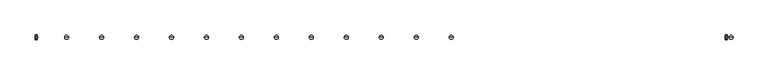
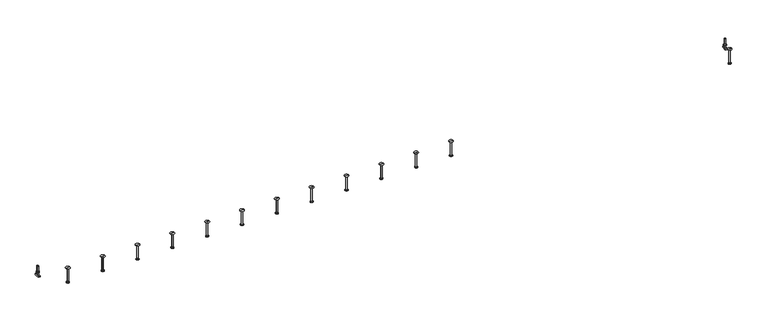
"""IFC4 building model written with IfcOpenShell, lengths in millimetres: fastener geometry, JTA-W JORDAHL® AnchorChannels : JTA-W L=6000 mm."""

from ifc_helpers import new_model, si_unit, point, frame, frame_2d, origin, place, context, project, spatial, polyline, circle_curve, trimmed, segment, composite_curve, outline, extrude, source, transform, mapped, element, save
from ifc_brep_helpers import plane_surface, cylinder_surface, revolved_surface, advanced_brep


def fastener_03d0444e(model_context):
    return source(origin(), model_context, "Body", "SolidModel", [
        advanced_brep(
        [(3593.0, 0.0, -34.0), (3575.5, 0.0, -34.0), (3610.5, 0.0, -34.0), (3581.2, 0.0, -165.0), (3593.0, 0.0, -165.0), (3604.8, 0.0, -165.0), (3581.2, 0.0, -163.0), (3604.8, 0.0, -163.0), (3587.2, 0.0, -159.5358984), (3598.8, 0.0, -159.5358984), (3587.2, 0.0, -37.0), (3598.8, 0.0, -37.0)],
        [
            (0, 1),
            (1, 2, circle_curve(frame((3593.0, 0.0, -34.0), z_axis=(0.0, 0.0, 1.0), x_axis=(1.0, 0.0, 0.0)), 17.5)),
            (2, 0),
            (2, 1, circle_curve(frame((3593.0, 0.0, -34.0), z_axis=(0.0, 0.0, 1.0), x_axis=(1.0, 0.0, 0.0)), 17.5)),
            (3, 4),
            (4, 5),
            (5, 3, circle_curve(frame((3593.0, 0.0, -165.0), z_axis=(0.0, 0.0, -1.0), x_axis=(1.0, 0.0, 0.0)), 11.8)),
            (3, 5, circle_curve(frame((3593.0, 0.0, -165.0), z_axis=(0.0, 0.0, -1.0), x_axis=(1.0, 0.0, 0.0)), 11.8)),
            (6, 3),
            (5, 7),
            (7, 6, circle_curve(frame((3593.0, 0.0, -163.0), z_axis=(0.0, 0.0, -1.0), x_axis=(1.0, 0.0, 0.0)), 11.8)),
            (6, 7, circle_curve(frame((3593.0, 0.0, -163.0), z_axis=(0.0, 0.0, -1.0), x_axis=(1.0, 0.0, 0.0)), 11.8)),
            (8, 6),
            (7, 9),
            (9, 8, circle_curve(frame((3593.0, 0.0, -159.5358984), z_axis=(0.0, 0.0, -1.0), x_axis=(1.0, 0.0, 0.0)), 5.8)),
            (8, 9, circle_curve(frame((3593.0, 0.0, -159.5358984), z_axis=(0.0, 0.0, -1.0), x_axis=(1.0, 0.0, 0.0)), 5.8)),
            (10, 8),
            (9, 11),
            (11, 10, circle_curve(frame((3593.0, 0.0, -37.0), z_axis=(0.0, 0.0, -1.0), x_axis=(1.0, 0.0, 0.0)), 5.8)),
            (10, 11, circle_curve(frame((3593.0, 0.0, -37.0), z_axis=(0.0, 0.0, -1.0), x_axis=(1.0, 0.0, 0.0)), 5.8)),
            (1, 10),
            (11, 2),
        ],
        [
            plane_surface(frame((3593.0, 0.0, -34.0), z_axis=(0.0, 0.0, 1.0), x_axis=(1.0, 0.0, 0.0))),
            plane_surface(frame((3593.0, 0.0, -165.0), z_axis=(0.0, 0.0, -1.0), x_axis=(1.0, 0.0, 0.0))),
            cylinder_surface(frame((3593.0, 0.0, 2345.3150031), z_axis=(0.0, 0.0, 1.0), x_axis=(1.0, 0.0, 0.0)), 11.8),
            revolved_surface(polyline([(3604.8, 0.0, -163.0), (3598.8, 0.0, -159.5358984)]), (3593.0, 0.0, 2345.3150031), (0.0, 0.0, 1.0)),
            cylinder_surface(frame((3593.0, 0.0, 2345.3150031), z_axis=(0.0, 0.0, 1.0), x_axis=(1.0, 0.0, 0.0)), 5.8),
            revolved_surface(polyline([(3598.8, 0.0, -37.0), (3610.5, 0.0, -34.0)]), (3593.0, 0.0, 2345.3150031), (0.0, 0.0, 1.0)),
        ],
        [
            (0, [[1, 2, 3]]),
            (0, [[-3, 4, -1]]),
            (1, [[5, 6, 7]]),
            (1, [[-6, -5, 8]]),
            (2, [[9, -7, 10, 11]]),
            (2, [[-10, -8, -9, 12]]),
            (3, [[13, -11, 14, 15]]),
            (3, [[-14, -12, -13, 16]]),
            (4, [[17, -15, 18, 19]]),
            (4, [[-18, -16, -17, 20]]),
            (5, [[21, -19, 22, -2]]),
            (5, [[-22, -20, -21, -4]]),
        ],
    ),
        advanced_brep(
        [(3296.5, 0.0, -34.0), (3279.0, 0.0, -34.0), (3314.0, 0.0, -34.0), (3284.7, 0.0, -165.0), (3296.5, 0.0, -165.0), (3308.3, 0.0, -165.0), (3284.7, 0.0, -163.0), (3308.3, 0.0, -163.0), (3290.7, 0.0, -159.5358984), (3302.3, 0.0, -159.5358984), (3290.7, 0.0, -37.0), (3302.3, 0.0, -37.0)],
        [
            (0, 1),
            (1, 2, circle_curve(frame((3296.5, 0.0, -34.0), z_axis=(0.0, 0.0, 1.0), x_axis=(1.0, 0.0, 0.0)), 17.5)),
            (2, 0),
            (2, 1, circle_curve(frame((3296.5, 0.0, -34.0), z_axis=(0.0, 0.0, 1.0), x_axis=(1.0, 0.0, 0.0)), 17.5)),
            (3, 4),
            (4, 5),
            (5, 3, circle_curve(frame((3296.5, 0.0, -165.0), z_axis=(0.0, 0.0, -1.0), x_axis=(1.0, 0.0, 0.0)), 11.8)),
            (3, 5, circle_curve(frame((3296.5, 0.0, -165.0), z_axis=(0.0, 0.0, -1.0), x_axis=(1.0, 0.0, 0.0)), 11.8)),
            (6, 3),
            (5, 7),
            (7, 6, circle_curve(frame((3296.5, 0.0, -163.0), z_axis=(0.0, 0.0, -1.0), x_axis=(1.0, 0.0, 0.0)), 11.8)),
            (6, 7, circle_curve(frame((3296.5, 0.0, -163.0), z_axis=(0.0, 0.0, -1.0), x_axis=(1.0, 0.0, 0.0)), 11.8)),
            (8, 6),
            (7, 9),
            (9, 8, circle_curve(frame((3296.5, 0.0, -159.5358984), z_axis=(0.0, 0.0, -1.0), x_axis=(1.0, 0.0, 0.0)), 5.8)),
            (8, 9, circle_curve(frame((3296.5, 0.0, -159.5358984), z_axis=(0.0, 0.0, -1.0), x_axis=(1.0, 0.0, 0.0)), 5.8)),
            (10, 8),
            (9, 11),
            (11, 10, circle_curve(frame((3296.5, 0.0, -37.0), z_axis=(0.0, 0.0, -1.0), x_axis=(1.0, 0.0, 0.0)), 5.8)),
            (10, 11, circle_curve(frame((3296.5, 0.0, -37.0), z_axis=(0.0, 0.0, -1.0), x_axis=(1.0, 0.0, 0.0)), 5.8)),
            (1, 10),
            (11, 2),
        ],
        [
            plane_surface(frame((3296.5, 0.0, -34.0), z_axis=(0.0, 0.0, 1.0), x_axis=(1.0, 0.0, 0.0))),
            plane_surface(frame((3296.5, 0.0, -165.0), z_axis=(0.0, 0.0, -1.0), x_axis=(1.0, 0.0, 0.0))),
            cylinder_surface(frame((3296.5, 0.0, 2345.3150031), z_axis=(0.0, 0.0, 1.0), x_axis=(1.0, 0.0, 0.0)), 11.8),
            revolved_surface(polyline([(3308.3, 0.0, -163.0), (3302.3, 0.0, -159.5358984)]), (3296.5, 0.0, 2345.3150031), (0.0, 0.0, 1.0)),
            cylinder_surface(frame((3296.5, 0.0, 2345.3150031), z_axis=(0.0, 0.0, 1.0), x_axis=(1.0, 0.0, 0.0)), 5.8),
            revolved_surface(polyline([(3302.3, 0.0, -37.0), (3314.0, 0.0, -34.0)]), (3296.5, 0.0, 2345.3150031), (0.0, 0.0, 1.0)),
        ],
        [
            (0, [[1, 2, 3]]),
            (0, [[-3, 4, -1]]),
            (1, [[5, 6, 7]]),
            (1, [[-6, -5, 8]]),
            (2, [[9, -7, 10, 11]]),
            (2, [[-10, -8, -9, 12]]),
            (3, [[13, -11, 14, 15]]),
            (3, [[-14, -12, -13, 16]]),
            (4, [[17, -15, 18, 19]]),
            (4, [[-18, -16, -17, 20]]),
            (5, [[21, -19, 22, -2]]),
            (5, [[-22, -20, -21, -4]]),
        ],
    ),
        advanced_brep(
        [(3000.0, 0.0, -34.0), (2982.5, 0.0, -34.0), (3017.5, 0.0, -34.0), (2988.2, 0.0, -165.0), (3000.0, 0.0, -165.0), (3011.8, 0.0, -165.0), (2988.2, 0.0, -163.0), (3011.8, 0.0, -163.0), (2994.2, 0.0, -159.5358984), (3005.8, 0.0, -159.5358984), (2994.2, 0.0, -37.0), (3005.8, 0.0, -37.0)],
        [
            (0, 1),
            (1, 2, circle_curve(frame((3000.0, 0.0, -34.0), z_axis=(0.0, 0.0, 1.0), x_axis=(1.0, 0.0, 0.0)), 17.5)),
            (2, 0),
            (2, 1, circle_curve(frame((3000.0, 0.0, -34.0), z_axis=(0.0, 0.0, 1.0), x_axis=(1.0, 0.0, 0.0)), 17.5)),
            (3, 4),
            (4, 5),
            (5, 3, circle_curve(frame((3000.0, 0.0, -165.0), z_axis=(0.0, 0.0, -1.0), x_axis=(1.0, 0.0, 0.0)), 11.8)),
            (3, 5, circle_curve(frame((3000.0, 0.0, -165.0), z_axis=(0.0, 0.0, -1.0), x_axis=(1.0, 0.0, 0.0)), 11.8)),
            (6, 3),
            (5, 7),
            (7, 6, circle_curve(frame((3000.0, 0.0, -163.0), z_axis=(0.0, 0.0, -1.0), x_axis=(1.0, 0.0, 0.0)), 11.8)),
            (6, 7, circle_curve(frame((3000.0, 0.0, -163.0), z_axis=(0.0, 0.0, -1.0), x_axis=(1.0, 0.0, 0.0)), 11.8)),
            (8, 6),
            (7, 9),
            (9, 8, circle_curve(frame((3000.0, 0.0, -159.5358984), z_axis=(0.0, 0.0, -1.0), x_axis=(1.0, 0.0, 0.0)), 5.8)),
            (8, 9, circle_curve(frame((3000.0, 0.0, -159.5358984), z_axis=(0.0, 0.0, -1.0), x_axis=(1.0, 0.0, 0.0)), 5.8)),
            (10, 8),
            (9, 11),
            (11, 10, circle_curve(frame((3000.0, 0.0, -37.0), z_axis=(0.0, 0.0, -1.0), x_axis=(1.0, 0.0, 0.0)), 5.8)),
            (10, 11, circle_curve(frame((3000.0, 0.0, -37.0), z_axis=(0.0, 0.0, -1.0), x_axis=(1.0, 0.0, 0.0)), 5.8)),
            (1, 10),
            (11, 2),
        ],
        [
            plane_surface(frame((3000.0, 0.0, -34.0), z_axis=(0.0, 0.0, 1.0), x_axis=(1.0, 0.0, 0.0))),
            plane_surface(frame((3000.0, 0.0, -165.0), z_axis=(0.0, 0.0, -1.0), x_axis=(1.0, 0.0, 0.0))),
            cylinder_surface(frame((3000.0, 0.0, 2345.3150031), z_axis=(0.0, 0.0, 1.0), x_axis=(1.0, 0.0, 0.0)), 11.8),
            revolved_surface(polyline([(3011.8, 0.0, -163.0), (3005.8, 0.0, -159.5358984)]), (3000.0, 0.0, 2345.3150031), (0.0, 0.0, 1.0)),
            cylinder_surface(frame((3000.0, 0.0, 2345.3150031), z_axis=(0.0, 0.0, 1.0), x_axis=(1.0, 0.0, 0.0)), 5.8),
            revolved_surface(polyline([(3005.8, 0.0, -37.0), (3017.5, 0.0, -34.0)]), (3000.0, 0.0, 2345.3150031), (0.0, 0.0, 1.0)),
        ],
        [
            (0, [[1, 2, 3]]),
            (0, [[-3, 4, -1]]),
            (1, [[5, 6, 7]]),
            (1, [[-6, -5, 8]]),
            (2, [[9, -7, 10, 11]]),
            (2, [[-10, -8, -9, 12]]),
            (3, [[13, -11, 14, 15]]),
            (3, [[-14, -12, -13, 16]]),
            (4, [[17, -15, 18, 19]]),
            (4, [[-18, -16, -17, 20]]),
            (5, [[21, -19, 22, -2]]),
            (5, [[-22, -20, -21, -4]]),
        ],
    ),
        advanced_brep(
        [(2703.5, 0.0, -34.0), (2686.0, 0.0, -34.0), (2721.0, 0.0, -34.0), (2691.7, 0.0, -165.0), (2703.5, 0.0, -165.0), (2715.3, 0.0, -165.0), (2691.7, 0.0, -163.0), (2715.3, 0.0, -163.0), (2697.7, 0.0, -159.5358984), (2709.3, 0.0, -159.5358984), (2697.7, 0.0, -37.0), (2709.3, 0.0, -37.0)],
        [
            (0, 1),
            (1, 2, circle_curve(frame((2703.5, 0.0, -34.0), z_axis=(0.0, 0.0, 1.0), x_axis=(1.0, 0.0, 0.0)), 17.5)),
            (2, 0),
            (2, 1, circle_curve(frame((2703.5, 0.0, -34.0), z_axis=(0.0, 0.0, 1.0), x_axis=(1.0, 0.0, 0.0)), 17.5)),
            (3, 4),
            (4, 5),
            (5, 3, circle_curve(frame((2703.5, 0.0, -165.0), z_axis=(0.0, 0.0, -1.0), x_axis=(1.0, 0.0, 0.0)), 11.8)),
            (3, 5, circle_curve(frame((2703.5, 0.0, -165.0), z_axis=(0.0, 0.0, -1.0), x_axis=(1.0, 0.0, 0.0)), 11.8)),
            (6, 3),
            (5, 7),
            (7, 6, circle_curve(frame((2703.5, 0.0, -163.0), z_axis=(0.0, 0.0, -1.0), x_axis=(1.0, 0.0, 0.0)), 11.8)),
            (6, 7, circle_curve(frame((2703.5, 0.0, -163.0), z_axis=(0.0, 0.0, -1.0), x_axis=(1.0, 0.0, 0.0)), 11.8)),
            (8, 6),
            (7, 9),
            (9, 8, circle_curve(frame((2703.5, 0.0, -159.5358984), z_axis=(0.0, 0.0, -1.0), x_axis=(1.0, 0.0, 0.0)), 5.8)),
            (8, 9, circle_curve(frame((2703.5, 0.0, -159.5358984), z_axis=(0.0, 0.0, -1.0), x_axis=(1.0, 0.0, 0.0)), 5.8)),
            (10, 8),
            (9, 11),
            (11, 10, circle_curve(frame((2703.5, 0.0, -37.0), z_axis=(0.0, 0.0, -1.0), x_axis=(1.0, 0.0, 0.0)), 5.8)),
            (10, 11, circle_curve(frame((2703.5, 0.0, -37.0), z_axis=(0.0, 0.0, -1.0), x_axis=(1.0, 0.0, 0.0)), 5.8)),
            (1, 10),
            (11, 2),
        ],
        [
            plane_surface(frame((2703.5, 0.0, -34.0), z_axis=(0.0, 0.0, 1.0), x_axis=(1.0, 0.0, 0.0))),
            plane_surface(frame((2703.5, 0.0, -165.0), z_axis=(0.0, 0.0, -1.0), x_axis=(1.0, 0.0, 0.0))),
            cylinder_surface(frame((2703.5, 0.0, 2345.3150031), z_axis=(0.0, 0.0, 1.0), x_axis=(1.0, 0.0, 0.0)), 11.8),
            revolved_surface(polyline([(2715.3, 0.0, -163.0), (2709.3, 0.0, -159.5358984)]), (2703.5, 0.0, 2345.3150031), (0.0, 0.0, 1.0)),
            cylinder_surface(frame((2703.5, 0.0, 2345.3150031), z_axis=(0.0, 0.0, 1.0), x_axis=(1.0, 0.0, 0.0)), 5.8),
            revolved_surface(polyline([(2709.3, 0.0, -37.0), (2721.0, 0.0, -34.0)]), (2703.5, 0.0, 2345.3150031), (0.0, 0.0, 1.0)),
        ],
        [
            (0, [[1, 2, 3]]),
            (0, [[-3, 4, -1]]),
            (1, [[5, 6, 7]]),
            (1, [[-6, -5, 8]]),
            (2, [[9, -7, 10, 11]]),
            (2, [[-10, -8, -9, 12]]),
            (3, [[13, -11, 14, 15]]),
            (3, [[-14, -12, -13, 16]]),
            (4, [[17, -15, 18, 19]]),
            (4, [[-18, -16, -17, 20]]),
            (5, [[21, -19, 22, -2]]),
            (5, [[-22, -20, -21, -4]]),
        ],
    ),
        advanced_brep(
        [(2407.0, 0.0, -34.0), (2389.5, 0.0, -34.0), (2424.5, 0.0, -34.0), (2395.2, 0.0, -165.0), (2407.0, 0.0, -165.0), (2418.8, 0.0, -165.0), (2395.2, 0.0, -163.0), (2418.8, 0.0, -163.0), (2401.2, 0.0, -159.5358984), (2412.8, 0.0, -159.5358984), (2401.2, 0.0, -37.0), (2412.8, 0.0, -37.0)],
        [
            (0, 1),
            (1, 2, circle_curve(frame((2407.0, 0.0, -34.0), z_axis=(0.0, 0.0, 1.0), x_axis=(1.0, 0.0, 0.0)), 17.5)),
            (2, 0),
            (2, 1, circle_curve(frame((2407.0, 0.0, -34.0), z_axis=(0.0, 0.0, 1.0), x_axis=(1.0, 0.0, 0.0)), 17.5)),
            (3, 4),
            (4, 5),
            (5, 3, circle_curve(frame((2407.0, 0.0, -165.0), z_axis=(0.0, 0.0, -1.0), x_axis=(1.0, 0.0, 0.0)), 11.8)),
            (3, 5, circle_curve(frame((2407.0, 0.0, -165.0), z_axis=(0.0, 0.0, -1.0), x_axis=(1.0, 0.0, 0.0)), 11.8)),
            (6, 3),
            (5, 7),
            (7, 6, circle_curve(frame((2407.0, 0.0, -163.0), z_axis=(0.0, 0.0, -1.0), x_axis=(1.0, 0.0, 0.0)), 11.8)),
            (6, 7, circle_curve(frame((2407.0, 0.0, -163.0), z_axis=(0.0, 0.0, -1.0), x_axis=(1.0, 0.0, 0.0)), 11.8)),
            (8, 6),
            (7, 9),
            (9, 8, circle_curve(frame((2407.0, 0.0, -159.5358984), z_axis=(0.0, 0.0, -1.0), x_axis=(1.0, 0.0, 0.0)), 5.8)),
            (8, 9, circle_curve(frame((2407.0, 0.0, -159.5358984), z_axis=(0.0, 0.0, -1.0), x_axis=(1.0, 0.0, 0.0)), 5.8)),
            (10, 8),
            (9, 11),
            (11, 10, circle_curve(frame((2407.0, 0.0, -37.0), z_axis=(0.0, 0.0, -1.0), x_axis=(1.0, 0.0, 0.0)), 5.8)),
            (10, 11, circle_curve(frame((2407.0, 0.0, -37.0), z_axis=(0.0, 0.0, -1.0), x_axis=(1.0, 0.0, 0.0)), 5.8)),
            (1, 10),
            (11, 2),
        ],
        [
            plane_surface(frame((2407.0, 0.0, -34.0), z_axis=(0.0, 0.0, 1.0), x_axis=(1.0, 0.0, 0.0))),
            plane_surface(frame((2407.0, 0.0, -165.0), z_axis=(0.0, 0.0, -1.0), x_axis=(1.0, 0.0, 0.0))),
            cylinder_surface(frame((2407.0, 0.0, 2345.3150031), z_axis=(0.0, 0.0, 1.0), x_axis=(1.0, 0.0, 0.0)), 11.8),
            revolved_surface(polyline([(2418.8, 0.0, -163.0), (2412.8, 0.0, -159.5358984)]), (2407.0, 0.0, 2345.3150031), (0.0, 0.0, 1.0)),
            cylinder_surface(frame((2407.0, 0.0, 2345.3150031), z_axis=(0.0, 0.0, 1.0), x_axis=(1.0, 0.0, 0.0)), 5.8),
            revolved_surface(polyline([(2412.8, 0.0, -37.0), (2424.5, 0.0, -34.0)]), (2407.0, 0.0, 2345.3150031), (0.0, 0.0, 1.0)),
        ],
        [
            (0, [[1, 2, 3]]),
            (0, [[-3, 4, -1]]),
            (1, [[5, 6, 7]]),
            (1, [[-6, -5, 8]]),
            (2, [[9, -7, 10, 11]]),
            (2, [[-10, -8, -9, 12]]),
            (3, [[13, -11, 14, 15]]),
            (3, [[-14, -12, -13, 16]]),
            (4, [[17, -15, 18, 19]]),
            (4, [[-18, -16, -17, 20]]),
            (5, [[21, -19, 22, -2]]),
            (5, [[-22, -20, -21, -4]]),
        ],
    ),
        advanced_brep(
        [(2110.5, 0.0, -34.0), (2093.0, 0.0, -34.0), (2128.0, 0.0, -34.0), (2098.7, 0.0, -165.0), (2110.5, 0.0, -165.0), (2122.3, 0.0, -165.0), (2098.7, 0.0, -163.0), (2122.3, 0.0, -163.0), (2104.7, 0.0, -159.5358984), (2116.3, 0.0, -159.5358984), (2104.7, 0.0, -37.0), (2116.3, 0.0, -37.0)],
        [
            (0, 1),
            (1, 2, circle_curve(frame((2110.5, 0.0, -34.0), z_axis=(0.0, 0.0, 1.0), x_axis=(1.0, 0.0, 0.0)), 17.5)),
            (2, 0),
            (2, 1, circle_curve(frame((2110.5, 0.0, -34.0), z_axis=(0.0, 0.0, 1.0), x_axis=(1.0, 0.0, 0.0)), 17.5)),
            (3, 4),
            (4, 5),
            (5, 3, circle_curve(frame((2110.5, 0.0, -165.0), z_axis=(0.0, 0.0, -1.0), x_axis=(1.0, 0.0, 0.0)), 11.8)),
            (3, 5, circle_curve(frame((2110.5, 0.0, -165.0), z_axis=(0.0, 0.0, -1.0), x_axis=(1.0, 0.0, 0.0)), 11.8)),
            (6, 3),
            (5, 7),
            (7, 6, circle_curve(frame((2110.5, 0.0, -163.0), z_axis=(0.0, 0.0, -1.0), x_axis=(1.0, 0.0, 0.0)), 11.8)),
            (6, 7, circle_curve(frame((2110.5, 0.0, -163.0), z_axis=(0.0, 0.0, -1.0), x_axis=(1.0, 0.0, 0.0)), 11.8)),
            (8, 6),
            (7, 9),
            (9, 8, circle_curve(frame((2110.5, 0.0, -159.5358984), z_axis=(0.0, 0.0, -1.0), x_axis=(1.0, 0.0, 0.0)), 5.8)),
            (8, 9, circle_curve(frame((2110.5, 0.0, -159.5358984), z_axis=(0.0, 0.0, -1.0), x_axis=(1.0, 0.0, 0.0)), 5.8)),
            (10, 8),
            (9, 11),
            (11, 10, circle_curve(frame((2110.5, 0.0, -37.0), z_axis=(0.0, 0.0, -1.0), x_axis=(1.0, 0.0, 0.0)), 5.8)),
            (10, 11, circle_curve(frame((2110.5, 0.0, -37.0), z_axis=(0.0, 0.0, -1.0), x_axis=(1.0, 0.0, 0.0)), 5.8)),
            (1, 10),
            (11, 2),
        ],
        [
            plane_surface(frame((2110.5, 0.0, -34.0), z_axis=(0.0, 0.0, 1.0), x_axis=(1.0, 0.0, 0.0))),
            plane_surface(frame((2110.5, 0.0, -165.0), z_axis=(0.0, 0.0, -1.0), x_axis=(1.0, 0.0, 0.0))),
            cylinder_surface(frame((2110.5, 0.0, 2345.3150031), z_axis=(0.0, 0.0, 1.0), x_axis=(1.0, 0.0, 0.0)), 11.8),
            revolved_surface(polyline([(2122.3, 0.0, -163.0), (2116.3, 0.0, -159.5358984)]), (2110.5, 0.0, 2345.3150031), (0.0, 0.0, 1.0)),
            cylinder_surface(frame((2110.5, 0.0, 2345.3150031), z_axis=(0.0, 0.0, 1.0), x_axis=(1.0, 0.0, 0.0)), 5.8),
            revolved_surface(polyline([(2116.3, 0.0, -37.0), (2128.0, 0.0, -34.0)]), (2110.5, 0.0, 2345.3150031), (0.0, 0.0, 1.0)),
        ],
        [
            (0, [[1, 2, 3]]),
            (0, [[-3, 4, -1]]),
            (1, [[5, 6, 7]]),
            (1, [[-6, -5, 8]]),
            (2, [[9, -7, 10, 11]]),
            (2, [[-10, -8, -9, 12]]),
            (3, [[13, -11, 14, 15]]),
            (3, [[-14, -12, -13, 16]]),
            (4, [[17, -15, 18, 19]]),
            (4, [[-18, -16, -17, 20]]),
            (5, [[21, -19, 22, -2]]),
            (5, [[-22, -20, -21, -4]]),
        ],
    ),
        advanced_brep(
        [(1814.0, 0.0, -34.0), (1796.5, 0.0, -34.0), (1831.5, 0.0, -34.0), (1802.2, 0.0, -165.0), (1814.0, 0.0, -165.0), (1825.8, 0.0, -165.0), (1802.2, 0.0, -163.0), (1825.8, 0.0, -163.0), (1808.2, 0.0, -159.5358984), (1819.8, 0.0, -159.5358984), (1808.2, 0.0, -37.0), (1819.8, 0.0, -37.0)],
        [
            (0, 1),
            (1, 2, circle_curve(frame((1814.0, 0.0, -34.0), z_axis=(0.0, 0.0, 1.0), x_axis=(1.0, 0.0, 0.0)), 17.5)),
            (2, 0),
            (2, 1, circle_curve(frame((1814.0, 0.0, -34.0), z_axis=(0.0, 0.0, 1.0), x_axis=(1.0, 0.0, 0.0)), 17.5)),
            (3, 4),
            (4, 5),
            (5, 3, circle_curve(frame((1814.0, 0.0, -165.0), z_axis=(0.0, 0.0, -1.0), x_axis=(1.0, 0.0, 0.0)), 11.8)),
            (3, 5, circle_curve(frame((1814.0, 0.0, -165.0), z_axis=(0.0, 0.0, -1.0), x_axis=(1.0, 0.0, 0.0)), 11.8)),
            (6, 3),
            (5, 7),
            (7, 6, circle_curve(frame((1814.0, 0.0, -163.0), z_axis=(0.0, 0.0, -1.0), x_axis=(1.0, 0.0, 0.0)), 11.8)),
            (6, 7, circle_curve(frame((1814.0, 0.0, -163.0), z_axis=(0.0, 0.0, -1.0), x_axis=(1.0, 0.0, 0.0)), 11.8)),
            (8, 6),
            (7, 9),
            (9, 8, circle_curve(frame((1814.0, 0.0, -159.5358984), z_axis=(0.0, 0.0, -1.0), x_axis=(1.0, 0.0, 0.0)), 5.8)),
            (8, 9, circle_curve(frame((1814.0, 0.0, -159.5358984), z_axis=(0.0, 0.0, -1.0), x_axis=(1.0, 0.0, 0.0)), 5.8)),
            (10, 8),
            (9, 11),
            (11, 10, circle_curve(frame((1814.0, 0.0, -37.0), z_axis=(0.0, 0.0, -1.0), x_axis=(1.0, 0.0, 0.0)), 5.8)),
            (10, 11, circle_curve(frame((1814.0, 0.0, -37.0), z_axis=(0.0, 0.0, -1.0), x_axis=(1.0, 0.0, 0.0)), 5.8)),
            (1, 10),
            (11, 2),
        ],
        [
            plane_surface(frame((1814.0, 0.0, -34.0), z_axis=(0.0, 0.0, 1.0), x_axis=(1.0, 0.0, 0.0))),
            plane_surface(frame((1814.0, 0.0, -165.0), z_axis=(0.0, 0.0, -1.0), x_axis=(1.0, 0.0, 0.0))),
            cylinder_surface(frame((1814.0, 0.0, 2345.3150031), z_axis=(0.0, 0.0, 1.0), x_axis=(1.0, 0.0, 0.0)), 11.8),
            revolved_surface(polyline([(1825.8, 0.0, -163.0), (1819.8, 0.0, -159.5358984)]), (1814.0, 0.0, 2345.3150031), (0.0, 0.0, 1.0)),
            cylinder_surface(frame((1814.0, 0.0, 2345.3150031), z_axis=(0.0, 0.0, 1.0), x_axis=(1.0, 0.0, 0.0)), 5.8),
            revolved_surface(polyline([(1819.8, 0.0, -37.0), (1831.5, 0.0, -34.0)]), (1814.0, 0.0, 2345.3150031), (0.0, 0.0, 1.0)),
        ],
        [
            (0, [[1, 2, 3]]),
            (0, [[-3, 4, -1]]),
            (1, [[5, 6, 7]]),
            (1, [[-6, -5, 8]]),
            (2, [[9, -7, 10, 11]]),
            (2, [[-10, -8, -9, 12]]),
            (3, [[13, -11, 14, 15]]),
            (3, [[-14, -12, -13, 16]]),
            (4, [[17, -15, 18, 19]]),
            (4, [[-18, -16, -17, 20]]),
            (5, [[21, -19, 22, -2]]),
            (5, [[-22, -20, -21, -4]]),
        ],
    ),
        advanced_brep(
        [(1517.5, 0.0, -34.0), (1500.0, 0.0, -34.0), (1535.0, 0.0, -34.0), (1505.7, 0.0, -165.0), (1517.5, 0.0, -165.0), (1529.3, 0.0, -165.0), (1505.7, 0.0, -163.0), (1529.3, 0.0, -163.0), (1511.7, 0.0, -159.5358984), (1523.3, 0.0, -159.5358984), (1511.7, 0.0, -37.0), (1523.3, 0.0, -37.0)],
        [
            (0, 1),
            (1, 2, circle_curve(frame((1517.5, 0.0, -34.0), z_axis=(0.0, 0.0, 1.0), x_axis=(1.0, 0.0, 0.0)), 17.5)),
            (2, 0),
            (2, 1, circle_curve(frame((1517.5, 0.0, -34.0), z_axis=(0.0, 0.0, 1.0), x_axis=(1.0, 0.0, 0.0)), 17.5)),
            (3, 4),
            (4, 5),
            (5, 3, circle_curve(frame((1517.5, 0.0, -165.0), z_axis=(0.0, 0.0, -1.0), x_axis=(1.0, 0.0, 0.0)), 11.8)),
            (3, 5, circle_curve(frame((1517.5, 0.0, -165.0), z_axis=(0.0, 0.0, -1.0), x_axis=(1.0, 0.0, 0.0)), 11.8)),
            (6, 3),
            (5, 7),
            (7, 6, circle_curve(frame((1517.5, 0.0, -163.0), z_axis=(0.0, 0.0, -1.0), x_axis=(1.0, 0.0, 0.0)), 11.8)),
            (6, 7, circle_curve(frame((1517.5, 0.0, -163.0), z_axis=(0.0, 0.0, -1.0), x_axis=(1.0, 0.0, 0.0)), 11.8)),
            (8, 6),
            (7, 9),
            (9, 8, circle_curve(frame((1517.5, 0.0, -159.5358984), z_axis=(0.0, 0.0, -1.0), x_axis=(1.0, 0.0, 0.0)), 5.8)),
            (8, 9, circle_curve(frame((1517.5, 0.0, -159.5358984), z_axis=(0.0, 0.0, -1.0), x_axis=(1.0, 0.0, 0.0)), 5.8)),
            (10, 8),
            (9, 11),
            (11, 10, circle_curve(frame((1517.5, 0.0, -37.0), z_axis=(0.0, 0.0, -1.0), x_axis=(1.0, 0.0, 0.0)), 5.8)),
            (10, 11, circle_curve(frame((1517.5, 0.0, -37.0), z_axis=(0.0, 0.0, -1.0), x_axis=(1.0, 0.0, 0.0)), 5.8)),
            (1, 10),
            (11, 2),
        ],
        [
            plane_surface(frame((1517.5, 0.0, -34.0), z_axis=(0.0, 0.0, 1.0), x_axis=(1.0, 0.0, 0.0))),
            plane_surface(frame((1517.5, 0.0, -165.0), z_axis=(0.0, 0.0, -1.0), x_axis=(1.0, 0.0, 0.0))),
            cylinder_surface(frame((1517.5, 0.0, 2345.3150031), z_axis=(0.0, 0.0, 1.0), x_axis=(1.0, 0.0, 0.0)), 11.8),
            revolved_surface(polyline([(1529.3, 0.0, -163.0), (1523.3, 0.0, -159.5358984)]), (1517.5, 0.0, 2345.3150031), (0.0, 0.0, 1.0)),
            cylinder_surface(frame((1517.5, 0.0, 2345.3150031), z_axis=(0.0, 0.0, 1.0), x_axis=(1.0, 0.0, 0.0)), 5.8),
            revolved_surface(polyline([(1523.3, 0.0, -37.0), (1535.0, 0.0, -34.0)]), (1517.5, 0.0, 2345.3150031), (0.0, 0.0, 1.0)),
        ],
        [
            (0, [[1, 2, 3]]),
            (0, [[-3, 4, -1]]),
            (1, [[5, 6, 7]]),
            (1, [[-6, -5, 8]]),
            (2, [[9, -7, 10, 11]]),
            (2, [[-10, -8, -9, 12]]),
            (3, [[13, -11, 14, 15]]),
            (3, [[-14, -12, -13, 16]]),
            (4, [[17, -15, 18, 19]]),
            (4, [[-18, -16, -17, 20]]),
            (5, [[21, -19, 22, -2]]),
            (5, [[-22, -20, -21, -4]]),
        ],
    ),
        advanced_brep(
        [(1221.0, 0.0, -34.0), (1203.5, 0.0, -34.0), (1238.5, 0.0, -34.0), (1209.2, 0.0, -165.0), (1221.0, 0.0, -165.0), (1232.8, 0.0, -165.0), (1209.2, 0.0, -163.0), (1232.8, 0.0, -163.0), (1215.2, 0.0, -159.5358984), (1226.8, 0.0, -159.5358984), (1215.2, 0.0, -37.0), (1226.8, 0.0, -37.0)],
        [
            (0, 1),
            (1, 2, circle_curve(frame((1221.0, 0.0, -34.0), z_axis=(0.0, 0.0, 1.0), x_axis=(1.0, 0.0, 0.0)), 17.5)),
            (2, 0),
            (2, 1, circle_curve(frame((1221.0, 0.0, -34.0), z_axis=(0.0, 0.0, 1.0), x_axis=(1.0, 0.0, 0.0)), 17.5)),
            (3, 4),
            (4, 5),
            (5, 3, circle_curve(frame((1221.0, 0.0, -165.0), z_axis=(0.0, 0.0, -1.0), x_axis=(1.0, 0.0, 0.0)), 11.8)),
            (3, 5, circle_curve(frame((1221.0, 0.0, -165.0), z_axis=(0.0, 0.0, -1.0), x_axis=(1.0, 0.0, 0.0)), 11.8)),
            (6, 3),
            (5, 7),
            (7, 6, circle_curve(frame((1221.0, 0.0, -163.0), z_axis=(0.0, 0.0, -1.0), x_axis=(1.0, 0.0, 0.0)), 11.8)),
            (6, 7, circle_curve(frame((1221.0, 0.0, -163.0), z_axis=(0.0, 0.0, -1.0), x_axis=(1.0, 0.0, 0.0)), 11.8)),
            (8, 6),
            (7, 9),
            (9, 8, circle_curve(frame((1221.0, 0.0, -159.5358984), z_axis=(0.0, 0.0, -1.0), x_axis=(1.0, 0.0, 0.0)), 5.8)),
            (8, 9, circle_curve(frame((1221.0, 0.0, -159.5358984), z_axis=(0.0, 0.0, -1.0), x_axis=(1.0, 0.0, 0.0)), 5.8)),
            (10, 8),
            (9, 11),
            (11, 10, circle_curve(frame((1221.0, 0.0, -37.0), z_axis=(0.0, 0.0, -1.0), x_axis=(1.0, 0.0, 0.0)), 5.8)),
            (10, 11, circle_curve(frame((1221.0, 0.0, -37.0), z_axis=(0.0, 0.0, -1.0), x_axis=(1.0, 0.0, 0.0)), 5.8)),
            (1, 10),
            (11, 2),
        ],
        [
            plane_surface(frame((1221.0, 0.0, -34.0), z_axis=(0.0, 0.0, 1.0), x_axis=(1.0, 0.0, 0.0))),
            plane_surface(frame((1221.0, 0.0, -165.0), z_axis=(0.0, 0.0, -1.0), x_axis=(1.0, 0.0, 0.0))),
            cylinder_surface(frame((1221.0, 0.0, 2345.3150031), z_axis=(0.0, 0.0, 1.0), x_axis=(1.0, 0.0, 0.0)), 11.8),
            revolved_surface(polyline([(1232.8, 0.0, -163.0), (1226.8, 0.0, -159.5358984)]), (1221.0, 0.0, 2345.3150031), (0.0, 0.0, 1.0)),
            cylinder_surface(frame((1221.0, 0.0, 2345.3150031), z_axis=(0.0, 0.0, 1.0), x_axis=(1.0, 0.0, 0.0)), 5.8),
            revolved_surface(polyline([(1226.8, 0.0, -37.0), (1238.5, 0.0, -34.0)]), (1221.0, 0.0, 2345.3150031), (0.0, 0.0, 1.0)),
        ],
        [
            (0, [[1, 2, 3]]),
            (0, [[-3, 4, -1]]),
            (1, [[5, 6, 7]]),
            (1, [[-6, -5, 8]]),
            (2, [[9, -7, 10, 11]]),
            (2, [[-10, -8, -9, 12]]),
            (3, [[13, -11, 14, 15]]),
            (3, [[-14, -12, -13, 16]]),
            (4, [[17, -15, 18, 19]]),
            (4, [[-18, -16, -17, 20]]),
            (5, [[21, -19, 22, -2]]),
            (5, [[-22, -20, -21, -4]]),
        ],
    ),
        advanced_brep(
        [(924.5, 0.0, -34.0), (907.0, 0.0, -34.0), (942.0, 0.0, -34.0), (912.7, 0.0, -165.0), (924.5, 0.0, -165.0), (936.3, 0.0, -165.0), (912.7, 0.0, -163.0), (936.3, 0.0, -163.0), (918.7, 0.0, -159.5358984), (930.3, 0.0, -159.5358984), (918.7, 0.0, -37.0), (930.3, 0.0, -37.0)],
        [
            (0, 1),
            (1, 2, circle_curve(frame((924.5, 0.0, -34.0), z_axis=(0.0, 0.0, 1.0), x_axis=(1.0, 0.0, 0.0)), 17.5)),
            (2, 0),
            (2, 1, circle_curve(frame((924.5, 0.0, -34.0), z_axis=(0.0, 0.0, 1.0), x_axis=(1.0, 0.0, 0.0)), 17.5)),
            (3, 4),
            (4, 5),
            (5, 3, circle_curve(frame((924.5, 0.0, -165.0), z_axis=(0.0, 0.0, -1.0), x_axis=(1.0, 0.0, 0.0)), 11.8)),
            (3, 5, circle_curve(frame((924.5, 0.0, -165.0), z_axis=(0.0, 0.0, -1.0), x_axis=(1.0, 0.0, 0.0)), 11.8)),
            (6, 3),
            (5, 7),
            (7, 6, circle_curve(frame((924.5, 0.0, -163.0), z_axis=(0.0, 0.0, -1.0), x_axis=(1.0, 0.0, 0.0)), 11.8)),
            (6, 7, circle_curve(frame((924.5, 0.0, -163.0), z_axis=(0.0, 0.0, -1.0), x_axis=(1.0, 0.0, 0.0)), 11.8)),
            (8, 6),
            (7, 9),
            (9, 8, circle_curve(frame((924.5, 0.0, -159.5358984), z_axis=(0.0, 0.0, -1.0), x_axis=(1.0, 0.0, 0.0)), 5.8)),
            (8, 9, circle_curve(frame((924.5, 0.0, -159.5358984), z_axis=(0.0, 0.0, -1.0), x_axis=(1.0, 0.0, 0.0)), 5.8)),
            (10, 8),
            (9, 11),
            (11, 10, circle_curve(frame((924.5, 0.0, -37.0), z_axis=(0.0, 0.0, -1.0), x_axis=(1.0, 0.0, 0.0)), 5.8)),
            (10, 11, circle_curve(frame((924.5, 0.0, -37.0), z_axis=(0.0, 0.0, -1.0), x_axis=(1.0, 0.0, 0.0)), 5.8)),
            (1, 10),
            (11, 2),
        ],
        [
            plane_surface(frame((924.5, 0.0, -34.0), z_axis=(0.0, 0.0, 1.0), x_axis=(1.0, 0.0, 0.0))),
            plane_surface(frame((924.5, 0.0, -165.0), z_axis=(0.0, 0.0, -1.0), x_axis=(1.0, 0.0, 0.0))),
            cylinder_surface(frame((924.5, 0.0, 2345.3150031), z_axis=(0.0, 0.0, 1.0), x_axis=(1.0, 0.0, 0.0)), 11.8),
            revolved_surface(polyline([(936.3, 0.0, -163.0), (930.3, 0.0, -159.5358984)]), (924.5, 0.0, 2345.3150031), (0.0, 0.0, 1.0)),
            cylinder_surface(frame((924.5, 0.0, 2345.3150031), z_axis=(0.0, 0.0, 1.0), x_axis=(1.0, 0.0, 0.0)), 5.8),
            revolved_surface(polyline([(930.3, 0.0, -37.0), (942.0, 0.0, -34.0)]), (924.5, 0.0, 2345.3150031), (0.0, 0.0, 1.0)),
        ],
        [
            (0, [[1, 2, 3]]),
            (0, [[-3, 4, -1]]),
            (1, [[5, 6, 7]]),
            (1, [[-6, -5, 8]]),
            (2, [[9, -7, 10, 11]]),
            (2, [[-10, -8, -9, 12]]),
            (3, [[13, -11, 14, 15]]),
            (3, [[-14, -12, -13, 16]]),
            (4, [[17, -15, 18, 19]]),
            (4, [[-18, -16, -17, 20]]),
            (5, [[21, -19, 22, -2]]),
            (5, [[-22, -20, -21, -4]]),
        ],
    ),
        advanced_brep(
        [(628.0, 0.0, -34.0), (610.5, 0.0, -34.0), (645.5, 0.0, -34.0), (616.2, 0.0, -165.0), (628.0, 0.0, -165.0), (639.8, 0.0, -165.0), (616.2, 0.0, -163.0), (639.8, 0.0, -163.0), (622.2, 0.0, -159.5358984), (633.8, 0.0, -159.5358984), (622.2, 0.0, -37.0), (633.8, 0.0, -37.0)],
        [
            (0, 1),
            (1, 2, circle_curve(frame((628.0, 0.0, -34.0), z_axis=(0.0, 0.0, 1.0), x_axis=(1.0, 0.0, 0.0)), 17.5)),
            (2, 0),
            (2, 1, circle_curve(frame((628.0, 0.0, -34.0), z_axis=(0.0, 0.0, 1.0), x_axis=(1.0, 0.0, 0.0)), 17.5)),
            (3, 4),
            (4, 5),
            (5, 3, circle_curve(frame((628.0, 0.0, -165.0), z_axis=(0.0, 0.0, -1.0), x_axis=(1.0, 0.0, 0.0)), 11.8)),
            (3, 5, circle_curve(frame((628.0, 0.0, -165.0), z_axis=(0.0, 0.0, -1.0), x_axis=(1.0, 0.0, 0.0)), 11.8)),
            (6, 3),
            (5, 7),
            (7, 6, circle_curve(frame((628.0, 0.0, -163.0), z_axis=(0.0, 0.0, -1.0), x_axis=(1.0, 0.0, 0.0)), 11.8)),
            (6, 7, circle_curve(frame((628.0, 0.0, -163.0), z_axis=(0.0, 0.0, -1.0), x_axis=(1.0, 0.0, 0.0)), 11.8)),
            (8, 6),
            (7, 9),
            (9, 8, circle_curve(frame((628.0, 0.0, -159.5358984), z_axis=(0.0, 0.0, -1.0), x_axis=(1.0, 0.0, 0.0)), 5.8)),
            (8, 9, circle_curve(frame((628.0, 0.0, -159.5358984), z_axis=(0.0, 0.0, -1.0), x_axis=(1.0, 0.0, 0.0)), 5.8)),
            (10, 8),
            (9, 11),
            (11, 10, circle_curve(frame((628.0, 0.0, -37.0), z_axis=(0.0, 0.0, -1.0), x_axis=(1.0, 0.0, 0.0)), 5.8)),
            (10, 11, circle_curve(frame((628.0, 0.0, -37.0), z_axis=(0.0, 0.0, -1.0), x_axis=(1.0, 0.0, 0.0)), 5.8)),
            (1, 10),
            (11, 2),
        ],
        [
            plane_surface(frame((628.0, 0.0, -34.0), z_axis=(0.0, 0.0, 1.0), x_axis=(1.0, 0.0, 0.0))),
            plane_surface(frame((628.0, 0.0, -165.0), z_axis=(0.0, 0.0, -1.0), x_axis=(1.0, 0.0, 0.0))),
            cylinder_surface(frame((628.0, 0.0, 2345.3150031), z_axis=(0.0, 0.0, 1.0), x_axis=(1.0, 0.0, 0.0)), 11.8),
            revolved_surface(polyline([(639.8, 0.0, -163.0), (633.8, 0.0, -159.5358984)]), (628.0, 0.0, 2345.3150031), (0.0, 0.0, 1.0)),
            cylinder_surface(frame((628.0, 0.0, 2345.3150031), z_axis=(0.0, 0.0, 1.0), x_axis=(1.0, 0.0, 0.0)), 5.8),
            revolved_surface(polyline([(633.8, 0.0, -37.0), (645.5, 0.0, -34.0)]), (628.0, 0.0, 2345.3150031), (0.0, 0.0, 1.0)),
        ],
        [
            (0, [[1, 2, 3]]),
            (0, [[-3, 4, -1]]),
            (1, [[5, 6, 7]]),
            (1, [[-6, -5, 8]]),
            (2, [[9, -7, 10, 11]]),
            (2, [[-10, -8, -9, 12]]),
            (3, [[13, -11, 14, 15]]),
            (3, [[-14, -12, -13, 16]]),
            (4, [[17, -15, 18, 19]]),
            (4, [[-18, -16, -17, 20]]),
            (5, [[21, -19, 22, -2]]),
            (5, [[-22, -20, -21, -4]]),
        ],
    ),
        advanced_brep(
        [(331.5, 0.0, -34.0), (314.0, 0.0, -34.0), (349.0, 0.0, -34.0), (319.7, 0.0, -165.0), (331.5, 0.0, -165.0), (343.3, 0.0, -165.0), (319.7, 0.0, -163.0), (343.3, 0.0, -163.0), (325.7, 0.0, -159.5358984), (337.3, 0.0, -159.5358984), (325.7, 0.0, -37.0), (337.3, 0.0, -37.0)],
        [
            (0, 1),
            (1, 2, circle_curve(frame((331.5, 0.0, -34.0), z_axis=(0.0, 0.0, 1.0), x_axis=(1.0, 0.0, 0.0)), 17.5)),
            (2, 0),
            (2, 1, circle_curve(frame((331.5, 0.0, -34.0), z_axis=(0.0, 0.0, 1.0), x_axis=(1.0, 0.0, 0.0)), 17.5)),
            (3, 4),
            (4, 5),
            (5, 3, circle_curve(frame((331.5, 0.0, -165.0), z_axis=(0.0, 0.0, -1.0), x_axis=(1.0, 0.0, 0.0)), 11.8)),
            (3, 5, circle_curve(frame((331.5, 0.0, -165.0), z_axis=(0.0, 0.0, -1.0), x_axis=(1.0, 0.0, 0.0)), 11.8)),
            (6, 3),
            (5, 7),
            (7, 6, circle_curve(frame((331.5, 0.0, -163.0), z_axis=(0.0, 0.0, -1.0), x_axis=(1.0, 0.0, 0.0)), 11.8)),
            (6, 7, circle_curve(frame((331.5, 0.0, -163.0), z_axis=(0.0, 0.0, -1.0), x_axis=(1.0, 0.0, 0.0)), 11.8)),
            (8, 6),
            (7, 9),
            (9, 8, circle_curve(frame((331.5, 0.0, -159.5358984), z_axis=(0.0, 0.0, -1.0), x_axis=(1.0, 0.0, 0.0)), 5.8)),
            (8, 9, circle_curve(frame((331.5, 0.0, -159.5358984), z_axis=(0.0, 0.0, -1.0), x_axis=(1.0, 0.0, 0.0)), 5.8)),
            (10, 8),
            (9, 11),
            (11, 10, circle_curve(frame((331.5, 0.0, -37.0), z_axis=(0.0, 0.0, -1.0), x_axis=(1.0, 0.0, 0.0)), 5.8)),
            (10, 11, circle_curve(frame((331.5, 0.0, -37.0), z_axis=(0.0, 0.0, -1.0), x_axis=(1.0, 0.0, 0.0)), 5.8)),
            (1, 10),
            (11, 2),
        ],
        [
            plane_surface(frame((331.5, 0.0, -34.0), z_axis=(0.0, 0.0, 1.0), x_axis=(1.0, 0.0, 0.0))),
            plane_surface(frame((331.5, 0.0, -165.0), z_axis=(0.0, 0.0, -1.0), x_axis=(1.0, 0.0, 0.0))),
            cylinder_surface(frame((331.5, 0.0, 2345.3150031), z_axis=(0.0, 0.0, 1.0), x_axis=(1.0, 0.0, 0.0)), 11.8),
            revolved_surface(polyline([(343.3, 0.0, -163.0), (337.3, 0.0, -159.5358984)]), (331.5, 0.0, 2345.3150031), (0.0, 0.0, 1.0)),
            cylinder_surface(frame((331.5, 0.0, 2345.3150031), z_axis=(0.0, 0.0, 1.0), x_axis=(1.0, 0.0, 0.0)), 5.8),
            revolved_surface(polyline([(337.3, 0.0, -37.0), (349.0, 0.0, -34.0)]), (331.5, 0.0, 2345.3150031), (0.0, 0.0, 1.0)),
        ],
        [
            (0, [[1, 2, 3]]),
            (0, [[-3, 4, -1]]),
            (1, [[5, 6, 7]]),
            (1, [[-6, -5, 8]]),
            (2, [[9, -7, 10, 11]]),
            (2, [[-10, -8, -9, 12]]),
            (3, [[13, -11, 14, 15]]),
            (3, [[-14, -12, -13, 16]]),
            (4, [[17, -15, 18, 19]]),
            (4, [[-18, -16, -17, 20]]),
            (5, [[21, -19, 22, -2]]),
            (5, [[-22, -20, -21, -4]]),
        ],
    ),
        extrude(outline(polyline([(5925.0, -10.3923048), (5916.0, -5.1961524), (5916.0, 5.1961524), (5925.0, 10.3923048), (5934.0, 5.1961524), (5934.0, -5.1961524), (5925.0, -10.3923048)]), holes=[composite_curve([segment(trimmed(circle_curve(frame_2d((5925.0, 0.0)), 6.0), [point((5919.0, 0.0))], [point((5931.0, 0.0))], True, "CARTESIAN"), True, "CONTINUOUS"), segment(trimmed(circle_curve(frame_2d((5925.0, 0.0)), 6.0), [point((5931.0, 0.0))], [point((5919.0, 0.0))], True, "CARTESIAN"), True, "CONTINUOUS")], self_intersect=False)]), frame((0.0, 0.0, 17.5), z_axis=(0.0, 0.0, 1.0), x_axis=(1.0, 0.0, 0.0)), (0.0, 0.0, 1.0), 10.8),
        extrude(outline(composite_curve([segment(trimmed(circle_curve(frame_2d((5925.0, 0.0)), 12.0), [point((5913.0, 0.0))], [point((5937.0, 0.0))], False, "CARTESIAN"), True, "CONTINUOUS"), segment(trimmed(circle_curve(frame_2d((5925.0, 0.0)), 12.0), [point((5937.0, 0.0))], [point((5913.0, 0.0))], False, "CARTESIAN"), True, "CONTINUOUS")], self_intersect=False), holes=[composite_curve([segment(trimmed(circle_curve(frame_2d((5925.0, 0.0)), 6.5), [point((5918.5, 0.0))], [point((5931.5, 0.0))], True, "CARTESIAN"), True, "CONTINUOUS"), segment(trimmed(circle_curve(frame_2d((5925.0, 0.0)), 6.5), [point((5931.5, 0.0))], [point((5918.5, 0.0))], True, "CARTESIAN"), True, "CONTINUOUS")], self_intersect=False)]), frame((0.0, 0.0, 15.0), z_axis=(0.0, 0.0, 1.0), x_axis=(1.0, 0.0, 0.0)), (0.0, 0.0, 1.0), 2.5),
        extrude(outline(polyline([(75.0, -10.3923048), (66.0, -5.1961524), (66.0, 5.1961524), (75.0, 10.3923048), (84.0, 5.1961524), (84.0, -5.1961524), (75.0, -10.3923048)]), holes=[composite_curve([segment(trimmed(circle_curve(frame_2d((75.0, 0.0)), 6.0), [point((69.0, 0.0))], [point((81.0, 0.0))], True, "CARTESIAN"), True, "CONTINUOUS"), segment(trimmed(circle_curve(frame_2d((75.0, 0.0)), 6.0), [point((81.0, 0.0))], [point((69.0, 0.0))], True, "CARTESIAN"), True, "CONTINUOUS")], self_intersect=False)]), frame((0.0, 0.0, 17.5), z_axis=(0.0, 0.0, 1.0), x_axis=(1.0, 0.0, 0.0)), (0.0, 0.0, 1.0), 10.8),
        extrude(outline(composite_curve([segment(trimmed(circle_curve(frame_2d((75.0, 0.0)), 12.0), [point((63.0, 0.0))], [point((87.0, 0.0))], False, "CARTESIAN"), True, "CONTINUOUS"), segment(trimmed(circle_curve(frame_2d((75.0, 0.0)), 12.0), [point((87.0, 0.0))], [point((63.0, 0.0))], False, "CARTESIAN"), True, "CONTINUOUS")], self_intersect=False), holes=[composite_curve([segment(trimmed(circle_curve(frame_2d((75.0, 0.0)), 6.5), [point((68.5, 0.0))], [point((81.5, 0.0))], True, "CARTESIAN"), True, "CONTINUOUS"), segment(trimmed(circle_curve(frame_2d((75.0, 0.0)), 6.5), [point((81.5, 0.0))], [point((68.5, 0.0))], True, "CARTESIAN"), True, "CONTINUOUS")], self_intersect=False)]), frame((0.0, 0.0, 15.0), z_axis=(0.0, 0.0, 1.0), x_axis=(1.0, 0.0, 0.0)), (0.0, 0.0, 1.0), 2.5),
        advanced_brep(
        [(5933.5, -20.7, -6.5), (5933.5, -20.7, -16.5), (5933.5, 20.7, -16.5), (5933.5, 20.7, -6.5), (5916.5, -20.7, -6.5), (5916.5, 20.7, -6.5), (5916.5, 20.7, -16.5), (5916.5, -20.7, -16.5), (5931.0, 0.0, -6.5), (5919.0, 0.0, -6.5), (5919.0, 0.0, 73.5), (5931.0, 0.0, 73.5)],
        [
            (0, 1),
            (1, 2),
            (2, 3),
            (3, 0),
            (4, 5),
            (5, 6),
            (6, 7),
            (7, 4),
            (3, 5),
            (4, 0),
            (8, 9, circle_curve(frame((5925.0, 0.0, -6.5), z_axis=(0.0, 0.0, -1.0), x_axis=(1.0, 0.0, 0.0)), 6.0)),
            (9, 8, circle_curve(frame((5925.0, 0.0, -6.5), z_axis=(0.0, 0.0, -1.0), x_axis=(1.0, 0.0, 0.0)), 6.0)),
            (2, 6),
            (1, 7),
            (10, 11, circle_curve(frame((5925.0, 0.0, 73.5), z_axis=(0.0, 0.0, 1.0), x_axis=(1.0, 0.0, 0.0)), 6.0)),
            (11, 10, circle_curve(frame((5925.0, 0.0, 73.5), z_axis=(0.0, 0.0, 1.0), x_axis=(1.0, 0.0, 0.0)), 6.0)),
            (11, 8),
            (9, 10),
        ],
        [
            plane_surface(frame((5933.5, 20.7, -6.5), z_axis=(1.0, 0.0, 0.0), x_axis=(0.0, 1.0, 0.0))),
            plane_surface(frame((5916.5, 20.7, -6.5), z_axis=(-1.0, 0.0, 0.0), x_axis=(0.0, -1.0, 0.0))),
            plane_surface(frame((5933.5, -20.7, -6.5), z_axis=(0.0, 0.0, 1.0), x_axis=(-1.0, 0.0, 0.0))),
            plane_surface(frame((5933.5, 20.7, -6.5), z_axis=(0.0, 1.0, 0.0), x_axis=(-1.0, 0.0, 0.0))),
            plane_surface(frame((5933.5, 20.7, -16.5), z_axis=(0.0, 0.0, -1.0), x_axis=(-1.0, 0.0, 0.0))),
            plane_surface(frame((5933.5, -20.7, -16.5), z_axis=(0.0, -1.0, 0.0), x_axis=(-1.0, 0.0, 0.0))),
            plane_surface(frame((5931.0, 0.0, 73.5), z_axis=(0.0, 0.0, 1.0), x_axis=(0.0, -1.0, 0.0))),
            cylinder_surface(frame((5925.0, 0.0, -6.5), z_axis=(0.0, 0.0, 1.0), x_axis=(1.0, 0.0, 0.0)), 6.0),
        ],
        [
            (0, [[1, 2, 3, 4]]),
            (1, [[5, 6, 7, 8]]),
            (2, [[9, -5, 10, -4], [11, 12]]),
            (3, [[13, -6, -9, -3]]),
            (4, [[14, -7, -13, -2]]),
            (5, [[-10, -8, -14, -1]]),
            (6, [[15, 16]]),
            (7, [[17, -12, 18, -16]]),
            (7, [[-18, -11, -17, -15]]),
        ],
    ),
        advanced_brep(
        [(83.5, -20.7, -6.5), (83.5, -20.7, -16.5), (83.5, 20.7, -16.5), (83.5, 20.7, -6.5), (66.5, -20.7, -6.5), (66.5, 20.7, -6.5), (66.5, 20.7, -16.5), (66.5, -20.7, -16.5), (81.0, 0.0, -6.5), (69.0, 0.0, -6.5), (69.0, 0.0, 73.5), (81.0, 0.0, 73.5)],
        [
            (0, 1),
            (1, 2),
            (2, 3),
            (3, 0),
            (4, 5),
            (5, 6),
            (6, 7),
            (7, 4),
            (3, 5),
            (4, 0),
            (8, 9, circle_curve(frame((75.0, 0.0, -6.5), z_axis=(0.0, 0.0, -1.0), x_axis=(1.0, 0.0, 0.0)), 6.0)),
            (9, 8, circle_curve(frame((75.0, 0.0, -6.5), z_axis=(0.0, 0.0, -1.0), x_axis=(1.0, 0.0, 0.0)), 6.0)),
            (2, 6),
            (1, 7),
            (10, 11, circle_curve(frame((75.0, 0.0, 73.5), z_axis=(0.0, 0.0, 1.0), x_axis=(1.0, 0.0, 0.0)), 6.0)),
            (11, 10, circle_curve(frame((75.0, 0.0, 73.5), z_axis=(0.0, 0.0, 1.0), x_axis=(1.0, 0.0, 0.0)), 6.0)),
            (11, 8),
            (9, 10),
        ],
        [
            plane_surface(frame((83.5, 20.7, -6.5), z_axis=(1.0, 0.0, 0.0), x_axis=(0.0, 1.0, 0.0))),
            plane_surface(frame((66.5, 20.7, -6.5), z_axis=(-1.0, 0.0, 0.0), x_axis=(0.0, -1.0, 0.0))),
            plane_surface(frame((83.5, -20.7, -6.5), z_axis=(0.0, 0.0, 1.0), x_axis=(-1.0, 0.0, 0.0))),
            plane_surface(frame((83.5, 20.7, -6.5), z_axis=(0.0, 1.0, 0.0), x_axis=(-1.0, 0.0, 0.0))),
            plane_surface(frame((83.5, 20.7, -16.5), z_axis=(0.0, 0.0, -1.0), x_axis=(-1.0, 0.0, 0.0))),
            plane_surface(frame((83.5, -20.7, -16.5), z_axis=(0.0, -1.0, 0.0), x_axis=(-1.0, 0.0, 0.0))),
            plane_surface(frame((81.0, 0.0, 73.5), z_axis=(0.0, 0.0, 1.0), x_axis=(0.0, -1.0, 0.0))),
            cylinder_surface(frame((75.0, 0.0, -6.5), z_axis=(0.0, 0.0, 1.0), x_axis=(1.0, 0.0, 0.0)), 6.0),
        ],
        [
            (0, [[1, 2, 3, 4]]),
            (1, [[5, 6, 7, 8]]),
            (2, [[9, -5, 10, -4], [11, 12]]),
            (3, [[13, -6, -9, -3]]),
            (4, [[14, -7, -13, -2]]),
            (5, [[-10, -8, -14, -1]]),
            (6, [[15, 16]]),
            (7, [[17, -12, 18, -16]]),
            (7, [[-18, -11, -17, -15]]),
        ],
    ),
        advanced_brep(
        [(5965.0, 0.0, -34.0), (5947.5, 0.0, -34.0), (5982.5, 0.0, -34.0), (5953.2, 0.0, -165.0), (5965.0, 0.0, -165.0), (5976.8, 0.0, -165.0), (5953.2, 0.0, -163.0), (5976.8, 0.0, -163.0), (5959.2, 0.0, -159.5358984), (5970.8, 0.0, -159.5358984), (5959.2, 0.0, -37.0), (5970.8, 0.0, -37.0)],
        [
            (0, 1),
            (1, 2, circle_curve(frame((5965.0, 0.0, -34.0), z_axis=(0.0, 0.0, 1.0), x_axis=(1.0, 0.0, 0.0)), 17.5)),
            (2, 0),
            (2, 1, circle_curve(frame((5965.0, 0.0, -34.0), z_axis=(0.0, 0.0, 1.0), x_axis=(1.0, 0.0, 0.0)), 17.5)),
            (3, 4),
            (4, 5),
            (5, 3, circle_curve(frame((5965.0, 0.0, -165.0), z_axis=(0.0, 0.0, -1.0), x_axis=(1.0, 0.0, 0.0)), 11.8)),
            (3, 5, circle_curve(frame((5965.0, 0.0, -165.0), z_axis=(0.0, 0.0, -1.0), x_axis=(1.0, 0.0, 0.0)), 11.8)),
            (6, 3),
            (5, 7),
            (7, 6, circle_curve(frame((5965.0, 0.0, -163.0), z_axis=(0.0, 0.0, -1.0), x_axis=(1.0, 0.0, 0.0)), 11.8)),
            (6, 7, circle_curve(frame((5965.0, 0.0, -163.0), z_axis=(0.0, 0.0, -1.0), x_axis=(1.0, 0.0, 0.0)), 11.8)),
            (8, 6),
            (7, 9),
            (9, 8, circle_curve(frame((5965.0, 0.0, -159.5358984), z_axis=(0.0, 0.0, -1.0), x_axis=(1.0, 0.0, 0.0)), 5.8)),
            (8, 9, circle_curve(frame((5965.0, 0.0, -159.5358984), z_axis=(0.0, 0.0, -1.0), x_axis=(1.0, 0.0, 0.0)), 5.8)),
            (10, 8),
            (9, 11),
            (11, 10, circle_curve(frame((5965.0, 0.0, -37.0), z_axis=(0.0, 0.0, -1.0), x_axis=(1.0, 0.0, 0.0)), 5.8)),
            (10, 11, circle_curve(frame((5965.0, 0.0, -37.0), z_axis=(0.0, 0.0, -1.0), x_axis=(1.0, 0.0, 0.0)), 5.8)),
            (1, 10),
            (11, 2),
        ],
        [
            plane_surface(frame((5965.0, 0.0, -34.0), z_axis=(0.0, 0.0, 1.0), x_axis=(1.0, 0.0, 0.0))),
            plane_surface(frame((5965.0, 0.0, -165.0), z_axis=(0.0, 0.0, -1.0), x_axis=(1.0, 0.0, 0.0))),
            cylinder_surface(frame((5965.0, 0.0, 2345.3150031), z_axis=(0.0, 0.0, 1.0), x_axis=(1.0, 0.0, 0.0)), 11.8),
            revolved_surface(polyline([(5976.8, 0.0, -163.0), (5970.8, 0.0, -159.5358984)]), (5965.0, 0.0, 2345.3150031), (0.0, 0.0, 1.0)),
            cylinder_surface(frame((5965.0, 0.0, 2345.3150031), z_axis=(0.0, 0.0, 1.0), x_axis=(1.0, 0.0, 0.0)), 5.8),
            revolved_surface(polyline([(5970.8, 0.0, -37.0), (5982.5, 0.0, -34.0)]), (5965.0, 0.0, 2345.3150031), (0.0, 0.0, 1.0)),
        ],
        [
            (0, [[1, 2, 3]]),
            (0, [[-3, 4, -1]]),
            (1, [[5, 6, 7]]),
            (1, [[-6, -5, 8]]),
            (2, [[9, -7, 10, 11]]),
            (2, [[-10, -8, -9, 12]]),
            (3, [[13, -11, 14, 15]]),
            (3, [[-14, -12, -13, 16]]),
            (4, [[17, -15, 18, 19]]),
            (4, [[-18, -16, -17, 20]]),
            (5, [[21, -19, 22, -2]]),
            (5, [[-22, -20, -21, -4]]),
        ],
    ),
    ])


if __name__ == "__main__":
    model = new_model("IFC4")
    model_context = context("Model", 3, world=origin())
    ifc_project = project(units=[si_unit("LENGTHUNIT", "METRE", prefix="MILLI")], contexts=[model_context])
    site = spatial("IfcSite", under=ifc_project)
    building = spatial("IfcBuilding", under=site)
    placement = place(None, origin())
    fastener_shape = fastener_03d0444e(model_context)
    element("IfcFastener", 1, ObjectType="JTA-W JORDAHL® AnchorChannels : JTA-W L=6000 mm", at=placement, inside=building, context=model_context, shape_type="MappedRepresentation", body=[
        mapped(fastener_shape, transform((0.0, 0.0, 0.0), x_axis=(1.0, 0.0, 0.0), y_axis=(0.0, 1.0, 0.0), z_axis=(0.0, 0.0, 1.0))),
    ])
    save(model, "model.ifc")
